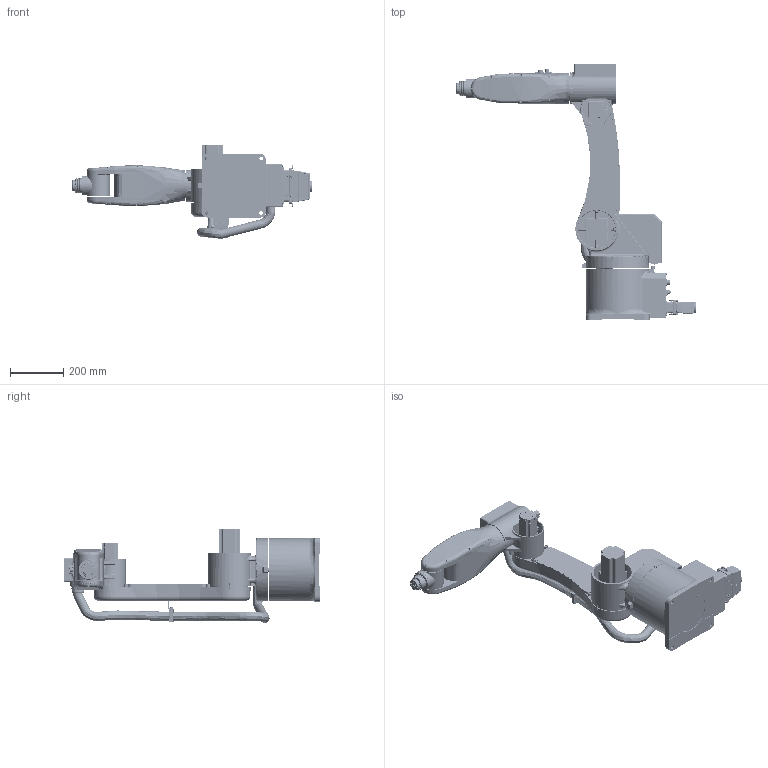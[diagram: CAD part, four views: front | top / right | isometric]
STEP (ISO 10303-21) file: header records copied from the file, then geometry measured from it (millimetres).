
FILE_DESCRIPTION (( 'STEP AP214' ), '1' );
FILE_NAME ('TKB1210 .STEP', '2020-07-16T07:41:08', ( '' ), ( '' ), 'SwSTEP 2.0', 'SolidWorks 2018', '' );
FILE_SCHEMA (( 'AUTOMOTIVE_DESIGN' ));
Length unit declared in the file: millimetre
Products named in the file (14): TKB140304; TKB1210-003; TKB07-001; TKB07-005; AD34.5 M32; 疏恇奪諉芛AD34.5; TKB07-007; 疏恇奪嘐隅釱AD34.5; TKB1210-004; TKB1210-002; 疏恇奪; TKB1210盄擢; TKB07-006; TKB1210 
Assembly tree (15 placements, depth 3):
  TKB1210 
    TKB07-001
    TKB1210-002
    TKB1210-003
    TKB1210-004
    TKB07-005
    TKB07-006
    TKB07-007
    TKB1210盄擢
      TKB140304
      疏恇奪嘐隅釱AD34.5
      疏恇奪
      疏恇奪諉芛AD34.5  x2
      AD34.5 M32  x2
Bounding box: 901.05 x 962.5 x 352.59 mm (x, y, z)
Volume: 26894134.2 mm3; surface area: 2451410.4 mm2
Topology: 122 solids, 226 shells, 10402 faces, 25878 edges, 15899 vertices
Faces by surface type: plane 3485, cylinder 3354, cone 1660, bspline 1283, torus 480, sphere 140
Entity records: 494087 total; most frequent: CARTESIAN_POINT 143913, ORIENTED_EDGE 50292, DIRECTION 48159, EDGE_CURVE 25146, AXIS2_PLACEMENT_3D 18044, VERTEX_POINT 15751, LINE 12071, VECTOR 12071
